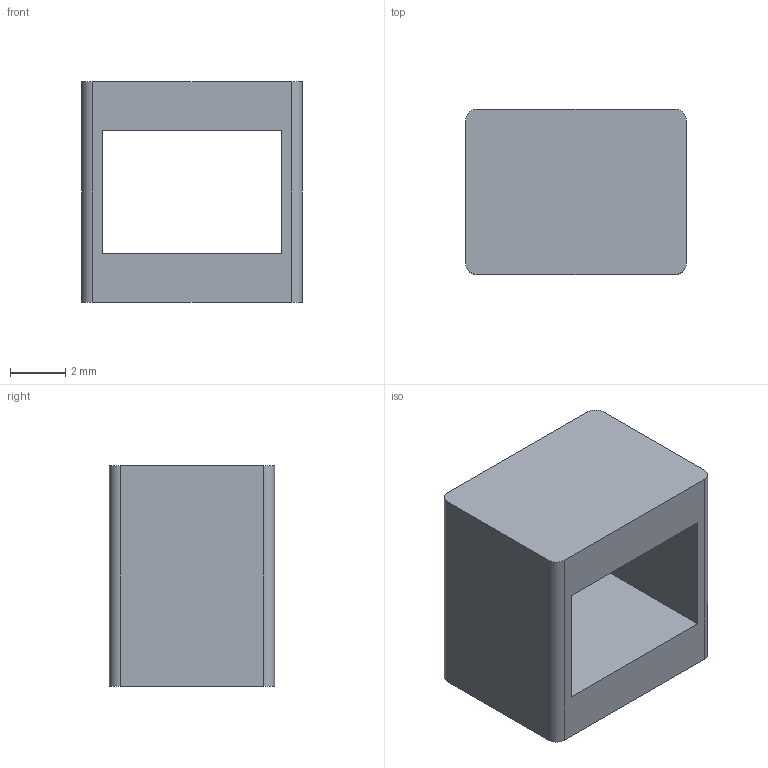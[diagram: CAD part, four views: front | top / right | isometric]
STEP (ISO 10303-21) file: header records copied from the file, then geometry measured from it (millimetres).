
FILE_DESCRIPTION(('Open CASCADE Model'),'2;1');
FILE_NAME('Open CASCADE Shape Model','2026-10-23T20:21:42',('Author'),( 'Open CASCADE'),'Open CASCADE STEP processor 7.8','Open CASCADE 7.8' ,'Unknown');
FILE_SCHEMA(('AUTOMOTIVE_DESIGN { 1 0 10303 214 1 1 1 1 }'));
Length unit declared in the file: millimetre
Products named in the file (1): Open CASCADE STEP translator 7.8 5
Bounding box: 8 x 6 x 8 mm (x, y, z)
Volume: 207.4 mm3; surface area: 387.7 mm2
Topology: 1 solids, 1 shells, 14 faces, 36 edges, 24 vertices
Faces by surface type: plane 10, cylinder 4
Entity records: 906 total; most frequent: CARTESIAN_POINT 187, DIRECTION 126, LINE 76, VECTOR 76, ORIENTED_EDGE 72, PCURVE 72, DEFINITIONAL_REPRESENTATION 72, EDGE_CURVE 36
